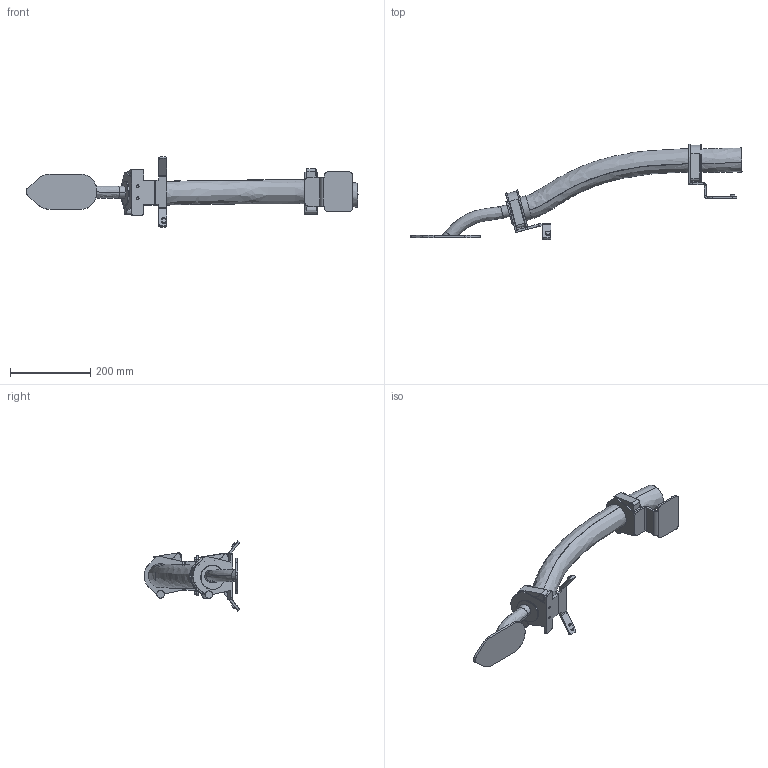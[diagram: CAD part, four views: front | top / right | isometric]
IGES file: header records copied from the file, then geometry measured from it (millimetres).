
Start section: SolidWorks IGES file using analytic representation for surfaces
Global section: file name: C:\Data\SAP_DOC\IRB6740_lightweight\6750S\IRB 6750S ASM\IRB6750S-MH3_350kg-320_OC_02_SW_J\IRB6750S-MH3_350kg-320_OC_02_IGES_J\IRB6750S-MH3_350kg-320-OC_00_LINK04_CABLE.igs; native system: SolidWorks 2024; preprocessor: SolidWorks 2024; author: SEJAOLS6; date: 260507.085222; units: millimetre
Bounding box: 826.5 x 238.26 x 174.65 mm (x, y, z)
Surface area: 249341.6 mm2 (no closed solid volume)
Topology: 0 solids, 0 shells, 276 faces, 3577 edges, 3577 vertices
Faces by surface type: bspline 194, revolution 82
